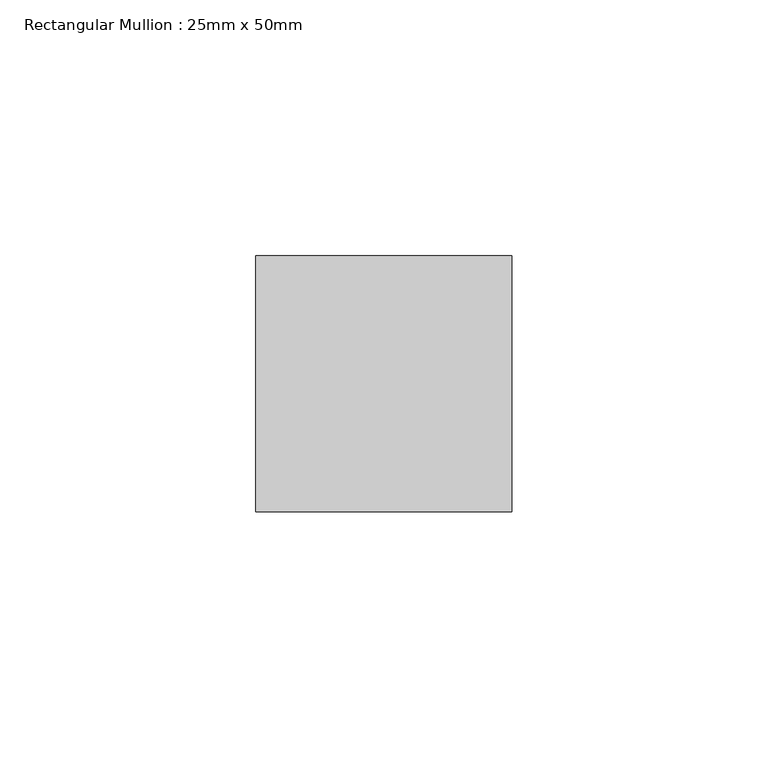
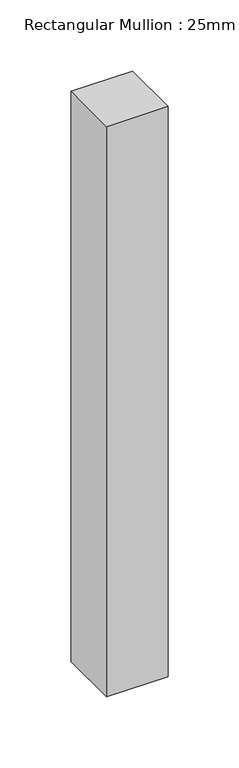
"""IFC4 building model written with IfcOpenShell, lengths in millimetres: member geometry, Rectangular Mullion : 25mm x 50mm."""

from ifc_helpers import new_model, si_unit, frame, origin, place, context, project, spatial, polyline, outline, extrude, source, transform, mapped, element, save


def rectangular_mullion_25mm_x_50mm_ac6bf51b(model_context):
    return source(origin(), model_context, "Body", "SweptSolid", [
        extrude(outline(polyline([(0.0, 25.0), (0.0, -25.0), (-50.0, -25.0), (-50.0, 25.0), (0.0, 25.0)])), frame((0.0, 0.0, -490.0), z_axis=(0.0, 0.0, 1.0), x_axis=(1.0, 0.0, 0.0)), (0.0, 0.0, 1.0), 490.0),
    ])


if __name__ == "__main__":
    model = new_model("IFC4")
    model_context = context("Model", 3, world=origin())
    ifc_project = project(units=[si_unit("LENGTHUNIT", "METRE", prefix="MILLI")], contexts=[model_context])
    site = spatial("IfcSite", under=ifc_project)
    building = spatial("IfcBuilding", under=site)
    placement = place(None, origin())
    rectangular_mullion_25mm_x_50mm_shape = rectangular_mullion_25mm_x_50mm_ac6bf51b(model_context)
    element("IfcMember", 1, ObjectType="Rectangular Mullion : 25mm x 50mm", at=placement, inside=building, context=model_context, shape_type="MappedRepresentation", body=[
        mapped(rectangular_mullion_25mm_x_50mm_shape, transform((0.0, 0.0, 0.0), x_axis=(1.0, 0.0, 0.0), y_axis=(0.0, 1.0, 0.0), z_axis=(0.0, 0.0, 1.0))),
    ])
    save(model, "model.ifc")
